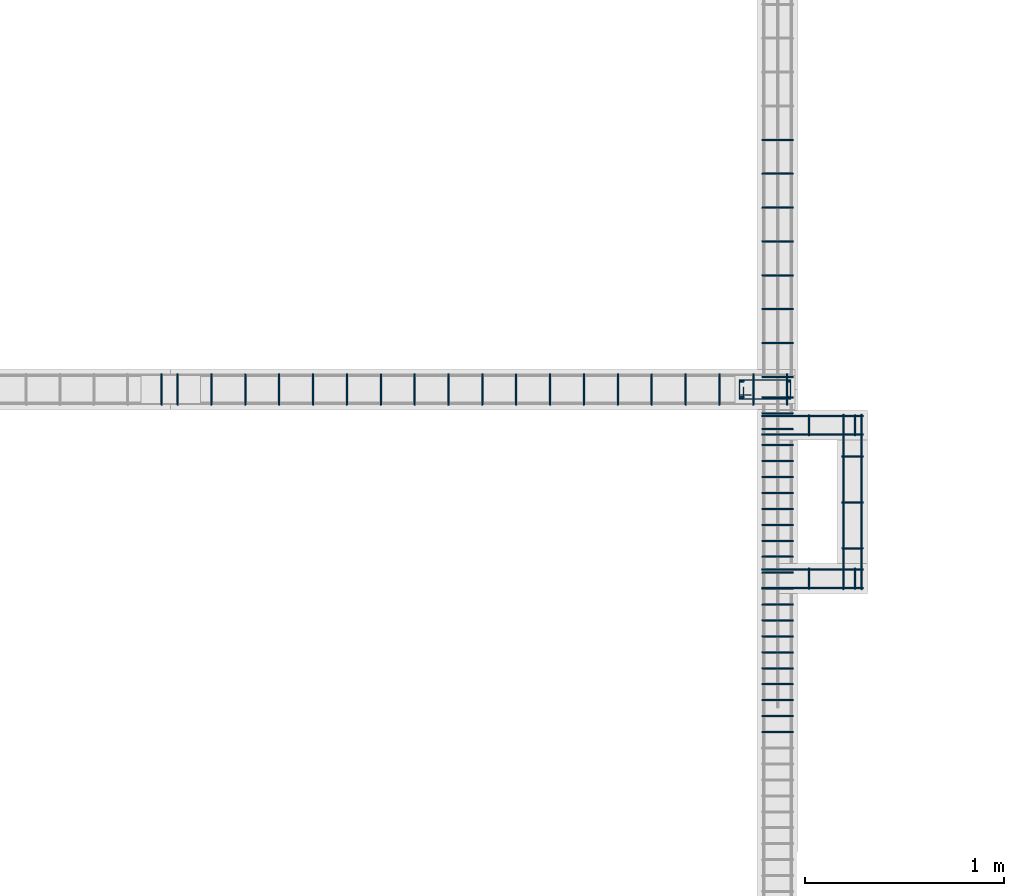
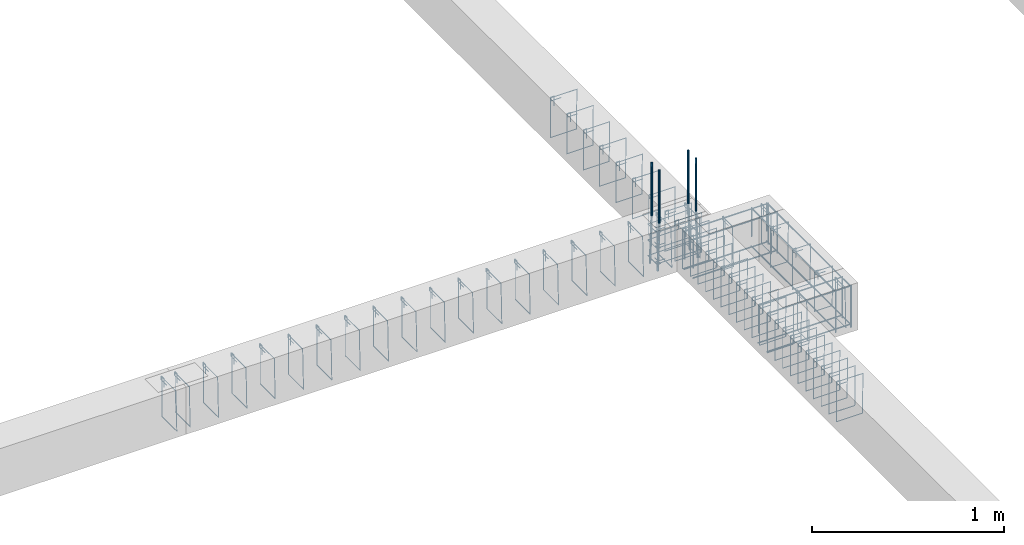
# One storey, part 70 of 150: 76 reinforcing bars.
"""IFC4 building model written with IfcOpenShell, lengths in centimetres."""

from ifc_helpers import new_model, entity, si_unit, derived_unit, frame, origin_with_axes, place, context, project, spatial, source, transform, mapped, element, save


model = new_model("IFC4")

# Units and contexts
model_context = context("Model", 3, precision=1e-05, world=origin_with_axes(), identifier="Body")
ifc_project = project(units=[si_unit("LENGTHUNIT", "METRE", prefix="CENTI"), si_unit("VOLUMEUNIT", "CUBIC_METRE"), si_unit("AREAUNIT", "SQUARE_METRE"), si_unit("POWERUNIT", "WATT"), si_unit("LUMINOUSFLUXUNIT", "LUMEN"), si_unit("ELECTRICCURRENTUNIT", "AMPERE"), si_unit("PRESSUREUNIT", "PASCAL", prefix="KILO"), si_unit("MASSUNIT", "GRAM", prefix="KILO"), si_unit("PLANEANGLEUNIT", "RADIAN"), derived_unit("VOLUMETRICFLOWRATEUNIT", [(si_unit("LENGTHUNIT", "METRE"), 3), (si_unit("TIMEUNIT", "SECOND"), -1)])], contexts=[model_context])

# Site, building, storey
site_placement = place(None, frame((-4000.0, 0.0, 0.0), z_axis=(0.0, 0.0, 1.0), x_axis=(1.0, 0.0, 0.0)))
site = spatial("IfcSite", under=ifc_project, at=site_placement, Name="PADRÃO")
building_placement = place(site_placement, frame((0.0, 0.0, -14.0)))
building = spatial("IfcBuilding", under=site, at=building_placement, Name="CRECHE PRÉ-ESCOLA TIPO 2")
placement = place(building_placement, origin_with_axes())
storey_placement = place(placement, frame((0.0, 0.0, 30.0), z_axis=(0.0, 0.0, 1.0), x_axis=(1.0, 0.0, 0.0)))
storey = spatial("IfcBuildingStorey", under=building, at=storey_placement, Name="VIGA BALDRAME", CompositionType="ELEMENT", Elevation=16.0)

# Reinforcing bars
shared_shape_1 = source(origin_with_axes(), model_context, "Body", "AdvancedSweptSolid", [
    entity("IfcSweptDiskSolid", entity("IfcCompositeCurve", [entity("IfcCompositeCurveSegment", "CONTINUOUS", True, entity("IfcPolyline", [entity("IfcCartesianPoint", [4.25, 21.75, 0.0]), entity("IfcCartesianPoint", [4.25, 27.75, 0.0])])), entity("IfcCompositeCurveSegment", "CONTINUOUS", True, entity("IfcPolyline", [entity("IfcCartesianPoint", [4.25, 27.75, 0.0]), entity("IfcCartesianPoint", [2.25, 27.75, 0.0])])), entity("IfcCompositeCurveSegment", "CONTINUOUS", True, entity("IfcPolyline", [entity("IfcCartesianPoint", [2.25, 27.75, 0.0]), entity("IfcCartesianPoint", [2.25, 2.25, 0.0])])), entity("IfcCompositeCurveSegment", "CONTINUOUS", True, entity("IfcPolyline", [entity("IfcCartesianPoint", [2.25, 2.25, 0.0]), entity("IfcCartesianPoint", [11.75, 2.25, 0.0])])), entity("IfcCompositeCurveSegment", "CONTINUOUS", True, entity("IfcPolyline", [entity("IfcCartesianPoint", [11.75, 2.25, 0.0]), entity("IfcCartesianPoint", [11.75, 27.75, -0.5])])), entity("IfcCompositeCurveSegment", "CONTINUOUS", True, entity("IfcPolyline", [entity("IfcCartesianPoint", [11.75, 27.75, -0.5]), entity("IfcCartesianPoint", [2.25, 27.75, -0.5])])), entity("IfcCompositeCurveSegment", "CONTINUOUS", True, entity("IfcPolyline", [entity("IfcCartesianPoint", [2.25, 27.75, -0.5]), entity("IfcCartesianPoint", [2.25, 25.75, -0.5])])), entity("IfcCompositeCurveSegment", "CONTINUOUS", True, entity("IfcPolyline", [entity("IfcCartesianPoint", [2.25, 25.75, -0.5]), entity("IfcCartesianPoint", [8.25, 25.75, -0.5])]))], False), 0.25),
])
for number, where, z_axis, x_axis, name in (
    (1, (1124.72, 2570.5, -25.0), (0.0, 0.0, 1.0), (0.0, 1.0, 0.0), "P71 - Estribo"),
    (2, (1124.72, 2570.5, -15.0), (0.0, 0.0, 1.0), (0.0, 1.0, 0.0), "P71 - Estribo"),
    (3, (1124.72, 2570.5, -5.0), (0.0, 0.0, 1.0), (0.0, 1.0, 0.0), "P71 - Estribo"),
):
    element("IfcReinforcingBar", number, at=place(storey_placement, frame(where, z_axis=z_axis, x_axis=x_axis)), inside=storey, Name=name, BarLength=0.0, CrossSectionArea=1.9634954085e-05, NominalDiameter=0.5, PredefinedType="MAIN", context=model_context, shape_type="MappedRepresentation", body=[
        mapped(shared_shape_1, transform((0.0, 0.0, 0.0), scale=1.0)),
    ])
shared_shape_2 = source(origin_with_axes(), model_context, "Body", "AdvancedSweptSolid", [
    entity("IfcSweptDiskSolid", entity("IfcCompositeCurve", [entity("IfcCompositeCurveSegment", "CONTINUOUS", True, entity("IfcPolyline", [entity("IfcCartesianPoint", [2.0, -6.0, 0.0]), entity("IfcCartesianPoint", [2.0, 0.0, 0.0])])), entity("IfcCompositeCurveSegment", "CONTINUOUS", True, entity("IfcPolyline", [entity("IfcCartesianPoint", [2.0, 0.0, 0.0]), entity("IfcCartesianPoint", [0.0, 0.0, 0.0])])), entity("IfcCompositeCurveSegment", "CONTINUOUS", True, entity("IfcPolyline", [entity("IfcCartesianPoint", [0.0, 0.0, 0.0]), entity("IfcCartesianPoint", [0.0, -25.5, 0.0])])), entity("IfcCompositeCurveSegment", "CONTINUOUS", True, entity("IfcPolyline", [entity("IfcCartesianPoint", [0.0, -25.5, 0.0]), entity("IfcCartesianPoint", [15.5, -25.5, 0.0])])), entity("IfcCompositeCurveSegment", "CONTINUOUS", True, entity("IfcPolyline", [entity("IfcCartesianPoint", [15.5, -25.5, 0.0]), entity("IfcCartesianPoint", [15.5, 0.0, 0.5])])), entity("IfcCompositeCurveSegment", "CONTINUOUS", True, entity("IfcPolyline", [entity("IfcCartesianPoint", [15.5, 0.0, 0.5]), entity("IfcCartesianPoint", [0.0, 0.0, 0.5])])), entity("IfcCompositeCurveSegment", "CONTINUOUS", True, entity("IfcPolyline", [entity("IfcCartesianPoint", [0.0, 0.0, 0.5]), entity("IfcCartesianPoint", [0.0, -2.0, 0.5])])), entity("IfcCompositeCurveSegment", "CONTINUOUS", True, entity("IfcPolyline", [entity("IfcCartesianPoint", [0.0, -2.0, 0.5]), entity("IfcCartesianPoint", [6.0, -2.0, 0.5])]))], False), 0.25),
])
for number, where, z_axis, x_axis, name in (
    (4, (1108.25, 2573.75, -2.25), (0.0, -1.0, 0.0), (1.0, 0.0, 0.0), "V183 - Estribo"),
    (5, (1108.25, 2565.75, -2.25), (0.0, -1.0, 0.0), (1.0, 0.0, 0.0), "V183 - Estribo"),
    (6, (1108.25, 2557.75, -2.25), (0.0, -1.0, 0.0), (1.0, 0.0, 0.0), "V183 - Estribo"),
    (7, (1108.25, 2549.75, -2.25), (0.0, -1.0, 0.0), (1.0, 0.0, 0.0), "V183 - Estribo"),
    (8, (1108.25, 2541.75, -2.25), (0.0, -1.0, 0.0), (1.0, 0.0, 0.0), "V183 - Estribo"),
    (9, (1108.25, 2533.75, -2.25), (0.0, -1.0, 0.0), (1.0, 0.0, 0.0), "V183 - Estribo"),
    (10, (1108.25, 2525.75, -2.25), (0.0, -1.0, 0.0), (1.0, 0.0, 0.0), "V183 - Estribo"),
    (11, (1108.25, 2517.75, -2.25), (0.0, -1.0, 0.0), (1.0, 0.0, 0.0), "V183 - Estribo"),
    (12, (1108.25, 2509.75, -2.25), (0.0, -1.0, 0.0), (1.0, 0.0, 0.0), "V183 - Estribo"),
    (13, (1108.25, 2501.75, -2.25), (0.0, -1.0, 0.0), (1.0, 0.0, 0.0), "V183 - Estribo"),
    (14, (1108.25, 2493.75, -2.25), (0.0, -1.0, 0.0), (1.0, 0.0, 0.0), "V183 - Estribo"),
    (15, (1108.25, 2485.75, -2.25), (0.0, -1.0, 0.0), (1.0, 0.0, 0.0), "V183 - Estribo"),
    (16, (1108.25, 2477.75, -2.25), (0.0, -1.0, 0.0), (1.0, 0.0, 0.0), "V183 - Estribo"),
    (17, (1108.25, 2469.75, -2.25), (0.0, -1.0, 0.0), (1.0, 0.0, 0.0), "V183 - Estribo"),
    (18, (1108.25, 2461.75, -2.25), (0.0, -1.0, 0.0), (1.0, 0.0, 0.0), "V183 - Estribo"),
    (19, (1108.25, 2453.75, -2.25), (0.0, -1.0, 0.0), (1.0, 0.0, 0.0), "V183 - Estribo"),
    (20, (1108.25, 2445.75, -2.25), (0.0, -1.0, 0.0), (1.0, 0.0, 0.0), "V183 - Estribo"),
    (21, (1108.25, 2437.75, -2.25), (0.0, -1.0, 0.0), (1.0, 0.0, 0.0), "V183 - Estribo"),
    (22, (1108.25, 2429.75, -2.25), (0.0, -1.0, 0.0), (1.0, 0.0, 0.0), "V183 - Estribo"),
    (23, (1108.25, 2421.75, -2.25), (0.0, -1.0, 0.0), (1.0, 0.0, 0.0), "V183 - Estribo"),
    (24, (1108.25, 2413.75, -2.25), (0.0, -1.0, 0.0), (1.0, 0.0, 0.0), "V183 - Estribo"),
    (25, (1108.25, 2405.75, -2.25), (0.0, -1.0, 0.0), (1.0, 0.0, 0.0), "V183 - Estribo"),
):
    element("IfcReinforcingBar", number, at=place(storey_placement, frame(where, z_axis=z_axis, x_axis=x_axis)), inside=storey, Name=name, BarLength=0.0, CrossSectionArea=1.9634954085e-05, NominalDiameter=0.5, PredefinedType="MAIN", context=model_context, shape_type="MappedRepresentation", body=[
        mapped(shared_shape_2, transform((0.0, 0.0, 0.0), scale=1.0)),
    ])
shared_shape_3 = source(origin_with_axes(), model_context, "Body", "AdvancedSweptSolid", [
    entity("IfcSweptDiskSolid", entity("IfcCompositeCurve", [entity("IfcCompositeCurveSegment", "CONTINUOUS", True, entity("IfcPolyline", [entity("IfcCartesianPoint", [2.0, -6.0, 0.0]), entity("IfcCartesianPoint", [2.0, 0.0, 0.0])])), entity("IfcCompositeCurveSegment", "CONTINUOUS", True, entity("IfcPolyline", [entity("IfcCartesianPoint", [2.0, 0.0, 0.0]), entity("IfcCartesianPoint", [0.0, 0.0, 0.0])])), entity("IfcCompositeCurveSegment", "CONTINUOUS", True, entity("IfcPolyline", [entity("IfcCartesianPoint", [0.0, 0.0, 0.0]), entity("IfcCartesianPoint", [0.0, -25.5, 0.0])])), entity("IfcCompositeCurveSegment", "CONTINUOUS", True, entity("IfcPolyline", [entity("IfcCartesianPoint", [0.0, -25.5, 0.0]), entity("IfcCartesianPoint", [15.5, -25.5, 0.0])])), entity("IfcCompositeCurveSegment", "CONTINUOUS", True, entity("IfcPolyline", [entity("IfcCartesianPoint", [15.5, -25.5, 0.0]), entity("IfcCartesianPoint", [15.5, 0.0, 0.5])])), entity("IfcCompositeCurveSegment", "CONTINUOUS", True, entity("IfcPolyline", [entity("IfcCartesianPoint", [15.5, 0.0, 0.5]), entity("IfcCartesianPoint", [0.0, 0.0, 0.5])])), entity("IfcCompositeCurveSegment", "CONTINUOUS", True, entity("IfcPolyline", [entity("IfcCartesianPoint", [0.0, 0.0, 0.5]), entity("IfcCartesianPoint", [0.0, -2.0, 0.5])])), entity("IfcCompositeCurveSegment", "CONTINUOUS", True, entity("IfcPolyline", [entity("IfcCartesianPoint", [0.0, -2.0, 0.5]), entity("IfcCartesianPoint", [6.0, -2.0, 0.5])]))], False), 0.25),
])
for number, where, z_axis, x_axis, name in (
    (26, (1108.25, 2703.0, -2.25), (0.0, -1.0, 0.0), (1.0, 0.0, 0.0), "V183 - Estribo"),
    (27, (1108.25, 2686.0, -2.25), (0.0, -1.0, 0.0), (1.0, 0.0, 0.0), "V183 - Estribo"),
    (28, (1108.25, 2669.0, -2.25), (0.0, -1.0, 0.0), (1.0, 0.0, 0.0), "V183 - Estribo"),
    (29, (1108.25, 2652.0, -2.25), (0.0, -1.0, 0.0), (1.0, 0.0, 0.0), "V183 - Estribo"),
    (30, (1108.25, 2635.0, -2.25), (0.0, -1.0, 0.0), (1.0, 0.0, 0.0), "V183 - Estribo"),
    (31, (1108.25, 2618.0, -2.25), (0.0, -1.0, 0.0), (1.0, 0.0, 0.0), "V183 - Estribo"),
    (32, (1108.25, 2601.0, -2.25), (0.0, -1.0, 0.0), (1.0, 0.0, 0.0), "V183 - Estribo"),
    (33, (1108.25, 2584.0, -2.25), (0.0, -1.0, 0.0), (1.0, 0.0, 0.0), "V183 - Estribo"),
):
    element("IfcReinforcingBar", number, at=place(storey_placement, frame(where, z_axis=z_axis, x_axis=x_axis)), inside=storey, Name=name, BarLength=0.0, CrossSectionArea=1.9634954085e-05, NominalDiameter=0.5, PredefinedType="MAIN", context=model_context, shape_type="MappedRepresentation", body=[
        mapped(shared_shape_3, transform((0.0, 0.0, 0.0), scale=1.0)),
    ])
shared_shape_4 = source(origin_with_axes(), model_context, "Body", "AdvancedSweptSolid", [
    entity("IfcSweptDiskSolid", entity("IfcCompositeCurve", [entity("IfcCompositeCurveSegment", "CONTINUOUS", True, entity("IfcPolyline", [entity("IfcCartesianPoint", [2.0, -6.0, 0.0]), entity("IfcCartesianPoint", [2.0, 0.0, 0.0])])), entity("IfcCompositeCurveSegment", "CONTINUOUS", True, entity("IfcPolyline", [entity("IfcCartesianPoint", [2.0, 0.0, 0.0]), entity("IfcCartesianPoint", [0.0, 0.0, 0.0])])), entity("IfcCompositeCurveSegment", "CONTINUOUS", True, entity("IfcPolyline", [entity("IfcCartesianPoint", [0.0, 0.0, 0.0]), entity("IfcCartesianPoint", [0.0, -25.5, 0.0])])), entity("IfcCompositeCurveSegment", "CONTINUOUS", True, entity("IfcPolyline", [entity("IfcCartesianPoint", [0.0, -25.5, 0.0]), entity("IfcCartesianPoint", [15.5, -25.5, 0.0])])), entity("IfcCompositeCurveSegment", "CONTINUOUS", True, entity("IfcPolyline", [entity("IfcCartesianPoint", [15.5, -25.5, 0.0]), entity("IfcCartesianPoint", [15.5, 0.0, 0.5])])), entity("IfcCompositeCurveSegment", "CONTINUOUS", True, entity("IfcPolyline", [entity("IfcCartesianPoint", [15.5, 0.0, 0.5]), entity("IfcCartesianPoint", [0.0, 0.0, 0.5])])), entity("IfcCompositeCurveSegment", "CONTINUOUS", True, entity("IfcPolyline", [entity("IfcCartesianPoint", [0.0, 0.0, 0.5]), entity("IfcCartesianPoint", [0.0, -2.0, 0.5])])), entity("IfcCompositeCurveSegment", "CONTINUOUS", True, entity("IfcPolyline", [entity("IfcCartesianPoint", [0.0, -2.0, 0.5]), entity("IfcCartesianPoint", [6.0, -2.0, 0.5])]))], False), 0.25),
])
reinforcing_bar_placement = place(storey_placement, frame((807.04, 2585.25, -2.25), z_axis=(-1.0, 0.0, 0.0), x_axis=(0.0, -1.0, 0.0)))
element("IfcReinforcingBar", 34, at=reinforcing_bar_placement, inside=storey, Name="V120 - Estribo", BarLength=0.0, CrossSectionArea=1.9634954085e-05, NominalDiameter=0.5, PredefinedType="MAIN", context=model_context, shape_type="MappedRepresentation", body=[
    mapped(shared_shape_4, transform((0.0, 0.0, 0.0), scale=1.0)),
])
shared_shape_5 = source(origin_with_axes(), model_context, "Body", "AdvancedSweptSolid", [
    entity("IfcSweptDiskSolid", entity("IfcCompositeCurve", [entity("IfcCompositeCurveSegment", "CONTINUOUS", True, entity("IfcPolyline", [entity("IfcCartesianPoint", [2.0, -6.0, 0.0]), entity("IfcCartesianPoint", [2.0, 0.0, 0.0])])), entity("IfcCompositeCurveSegment", "CONTINUOUS", True, entity("IfcPolyline", [entity("IfcCartesianPoint", [2.0, 0.0, 0.0]), entity("IfcCartesianPoint", [0.0, 0.0, 0.0])])), entity("IfcCompositeCurveSegment", "CONTINUOUS", True, entity("IfcPolyline", [entity("IfcCartesianPoint", [0.0, 0.0, 0.0]), entity("IfcCartesianPoint", [0.0, -25.5, 0.0])])), entity("IfcCompositeCurveSegment", "CONTINUOUS", True, entity("IfcPolyline", [entity("IfcCartesianPoint", [0.0, -25.5, 0.0]), entity("IfcCartesianPoint", [15.5, -25.5, 0.0])])), entity("IfcCompositeCurveSegment", "CONTINUOUS", True, entity("IfcPolyline", [entity("IfcCartesianPoint", [15.5, -25.5, 0.0]), entity("IfcCartesianPoint", [15.5, 0.0, 0.5])])), entity("IfcCompositeCurveSegment", "CONTINUOUS", True, entity("IfcPolyline", [entity("IfcCartesianPoint", [15.5, 0.0, 0.5]), entity("IfcCartesianPoint", [0.0, 0.0, 0.5])])), entity("IfcCompositeCurveSegment", "CONTINUOUS", True, entity("IfcPolyline", [entity("IfcCartesianPoint", [0.0, 0.0, 0.5]), entity("IfcCartesianPoint", [0.0, -2.0, 0.5])])), entity("IfcCompositeCurveSegment", "CONTINUOUS", True, entity("IfcPolyline", [entity("IfcCartesianPoint", [0.0, -2.0, 0.5]), entity("IfcCartesianPoint", [6.0, -2.0, 0.5])]))], False), 0.25),
])
for number, where, z_axis, x_axis, name in (
    (35, (1070.055, 2585.25, -2.25), (-1.0, 0.0, 0.0), (0.0, -1.0, 0.0), "V120 - Estribo"),
    (36, (1053.055, 2585.25, -2.25), (-1.0, 0.0, 0.0), (0.0, -1.0, 0.0), "V120 - Estribo"),
    (37, (1036.055, 2585.25, -2.25), (-1.0, 0.0, 0.0), (0.0, -1.0, 0.0), "V120 - Estribo"),
    (38, (1019.055, 2585.25, -2.25), (-1.0, 0.0, 0.0), (0.0, -1.0, 0.0), "V120 - Estribo"),
    (39, (968.055, 2585.25, -2.25), (-1.0, 0.0, 0.0), (0.0, -1.0, 0.0), "V120 - Estribo"),
    (40, (951.055, 2585.25, -2.25), (-1.0, 0.0, 0.0), (0.0, -1.0, 0.0), "V120 - Estribo"),
    (41, (1121.055, 2585.25, -2.25), (-1.0, 0.0, 0.0), (0.0, -1.0, 0.0), "V120 - Estribo"),
    (42, (815.055, 2585.25, -2.25), (-1.0, 0.0, 0.0), (0.0, -1.0, 0.0), "V120 - Estribo"),
    (43, (832.055, 2585.25, -2.25), (-1.0, 0.0, 0.0), (0.0, -1.0, 0.0), "V120 - Estribo"),
    (44, (985.055, 2585.25, -2.25), (-1.0, 0.0, 0.0), (0.0, -1.0, 0.0), "V120 - Estribo"),
    (45, (849.055, 2585.25, -2.25), (-1.0, 0.0, 0.0), (0.0, -1.0, 0.0), "V120 - Estribo"),
    (46, (1002.055, 2585.25, -2.25), (-1.0, 0.0, 0.0), (0.0, -1.0, 0.0), "V120 - Estribo"),
    (47, (866.055, 2585.25, -2.25), (-1.0, 0.0, 0.0), (0.0, -1.0, 0.0), "V120 - Estribo"),
    (48, (934.055, 2585.25, -2.25), (-1.0, 0.0, 0.0), (0.0, -1.0, 0.0), "V120 - Estribo"),
    (49, (900.055, 2585.25, -2.25), (-1.0, 0.0, 0.0), (0.0, -1.0, 0.0), "V120 - Estribo"),
    (50, (917.055, 2585.25, -2.25), (-1.0, 0.0, 0.0), (0.0, -1.0, 0.0), "V120 - Estribo"),
    (51, (883.055, 2585.25, -2.25), (-1.0, 0.0, 0.0), (0.0, -1.0, 0.0), "V120 - Estribo"),
    (52, (1104.055, 2585.25, -2.25), (-1.0, 0.0, 0.0), (0.0, -1.0, 0.0), "V120 - Estribo"),
    (53, (1087.055, 2585.25, -2.25), (-1.0, 0.0, 0.0), (0.0, -1.0, 0.0), "V120 - Estribo"),
):
    element("IfcReinforcingBar", number, at=place(storey_placement, frame(where, z_axis=z_axis, x_axis=x_axis)), inside=storey, Name=name, BarLength=0.0, CrossSectionArea=1.9634954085e-05, NominalDiameter=0.5, PredefinedType="MAIN", context=model_context, shape_type="MappedRepresentation", body=[
        mapped(shared_shape_5, transform((0.0, 0.0, 0.0), scale=1.0)),
    ])
shared_shape_6 = source(origin_with_axes(), model_context, "Body", "AdvancedSweptSolid", [
    entity("IfcSweptDiskSolid", entity("IfcCompositeCurve", [entity("IfcCompositeCurveSegment", "CONTINUOUS", True, entity("IfcPolyline", [entity("IfcCartesianPoint", [2.0, -6.0, 0.0]), entity("IfcCartesianPoint", [2.0, 0.0, 0.0])])), entity("IfcCompositeCurveSegment", "CONTINUOUS", True, entity("IfcPolyline", [entity("IfcCartesianPoint", [2.0, 0.0, 0.0]), entity("IfcCartesianPoint", [0.0, 0.0, 0.0])])), entity("IfcCompositeCurveSegment", "CONTINUOUS", True, entity("IfcPolyline", [entity("IfcCartesianPoint", [0.0, 0.0, 0.0]), entity("IfcCartesianPoint", [0.0, -25.5, 0.0])])), entity("IfcCompositeCurveSegment", "CONTINUOUS", True, entity("IfcPolyline", [entity("IfcCartesianPoint", [0.0, -25.5, 0.0]), entity("IfcCartesianPoint", [10.5, -25.5, 0.0])])), entity("IfcCompositeCurveSegment", "CONTINUOUS", True, entity("IfcPolyline", [entity("IfcCartesianPoint", [10.5, -25.5, 0.0]), entity("IfcCartesianPoint", [10.5, 0.0, 0.5])])), entity("IfcCompositeCurveSegment", "CONTINUOUS", True, entity("IfcPolyline", [entity("IfcCartesianPoint", [10.5, 0.0, 0.5]), entity("IfcCartesianPoint", [0.0, 0.0, 0.5])])), entity("IfcCompositeCurveSegment", "CONTINUOUS", True, entity("IfcPolyline", [entity("IfcCartesianPoint", [0.0, 0.0, 0.5]), entity("IfcCartesianPoint", [0.0, -2.0, 0.5])])), entity("IfcCompositeCurveSegment", "CONTINUOUS", True, entity("IfcPolyline", [entity("IfcCartesianPoint", [0.0, -2.0, 0.5]), entity("IfcCartesianPoint", [6.0, -2.0, 0.5])]))], False), 0.25),
])
for number, where, z_axis, x_axis, name in (
    (54, (1155.035, 2564.75, -2.25), (-1.0, 0.0, 0.0), (0.0, -1.0, 0.0), "V121 - Estribo"),
    (55, (1132.035, 2564.75, -2.25), (-1.0, 0.0, 0.0), (0.0, -1.0, 0.0), "V121 - Estribo"),
):
    element("IfcReinforcingBar", number, at=place(storey_placement, frame(where, z_axis=z_axis, x_axis=x_axis)), inside=storey, Name=name, BarLength=0.0, CrossSectionArea=1.9634954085e-05, NominalDiameter=0.5, PredefinedType="MAIN", context=model_context, shape_type="MappedRepresentation", body=[
        mapped(shared_shape_6, transform((0.0, 0.0, 0.0), scale=1.0)),
    ])
shared_shape_7 = source(origin_with_axes(), model_context, "Body", "AdvancedSweptSolid", [
    entity("IfcSweptDiskSolid", entity("IfcCompositeCurve", [entity("IfcCompositeCurveSegment", "CONTINUOUS", True, entity("IfcPolyline", [entity("IfcCartesianPoint", [2.0, -6.0, 0.0]), entity("IfcCartesianPoint", [2.0, 0.0, 0.0])])), entity("IfcCompositeCurveSegment", "CONTINUOUS", True, entity("IfcPolyline", [entity("IfcCartesianPoint", [2.0, 0.0, 0.0]), entity("IfcCartesianPoint", [0.0, 0.0, 0.0])])), entity("IfcCompositeCurveSegment", "CONTINUOUS", True, entity("IfcPolyline", [entity("IfcCartesianPoint", [0.0, 0.0, 0.0]), entity("IfcCartesianPoint", [0.0, -25.5, 0.0])])), entity("IfcCompositeCurveSegment", "CONTINUOUS", True, entity("IfcPolyline", [entity("IfcCartesianPoint", [0.0, -25.5, 0.0]), entity("IfcCartesianPoint", [10.5, -25.5, 0.0])])), entity("IfcCompositeCurveSegment", "CONTINUOUS", True, entity("IfcPolyline", [entity("IfcCartesianPoint", [10.5, -25.5, 0.0]), entity("IfcCartesianPoint", [10.5, 0.0, 0.5])])), entity("IfcCompositeCurveSegment", "CONTINUOUS", True, entity("IfcPolyline", [entity("IfcCartesianPoint", [10.5, 0.0, 0.5]), entity("IfcCartesianPoint", [0.0, 0.0, 0.5])])), entity("IfcCompositeCurveSegment", "CONTINUOUS", True, entity("IfcPolyline", [entity("IfcCartesianPoint", [0.0, 0.0, 0.5]), entity("IfcCartesianPoint", [0.0, -2.0, 0.5])])), entity("IfcCompositeCurveSegment", "CONTINUOUS", True, entity("IfcPolyline", [entity("IfcCartesianPoint", [0.0, -2.0, 0.5]), entity("IfcCartesianPoint", [6.0, -2.0, 0.5])]))], False), 0.25),
])
for number, where, z_axis, x_axis, name in (
    (56, (1132.035, 2487.75, -2.25), (-1.0, 0.0, 0.0), (0.0, -1.0, 0.0), "V124 - Estribo"),
    (57, (1155.035, 2487.75, -2.25), (-1.0, 0.0, 0.0), (0.0, -1.0, 0.0), "V124 - Estribo"),
):
    element("IfcReinforcingBar", number, at=place(storey_placement, frame(where, z_axis=z_axis, x_axis=x_axis)), inside=storey, Name=name, BarLength=0.0, CrossSectionArea=1.9634954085e-05, NominalDiameter=0.5, PredefinedType="MAIN", context=model_context, shape_type="MappedRepresentation", body=[
        mapped(shared_shape_7, transform((0.0, 0.0, 0.0), scale=1.0)),
    ])
shared_shape_8 = source(origin_with_axes(), model_context, "Body", "AdvancedSweptSolid", [
    entity("IfcSweptDiskSolid", entity("IfcCompositeCurve", [entity("IfcCompositeCurveSegment", "CONTINUOUS", True, entity("IfcPolyline", [entity("IfcCartesianPoint", [2.0, -6.0, 0.0]), entity("IfcCartesianPoint", [2.0, 0.0, 0.0])])), entity("IfcCompositeCurveSegment", "CONTINUOUS", True, entity("IfcPolyline", [entity("IfcCartesianPoint", [2.0, 0.0, 0.0]), entity("IfcCartesianPoint", [0.0, 0.0, 0.0])])), entity("IfcCompositeCurveSegment", "CONTINUOUS", True, entity("IfcPolyline", [entity("IfcCartesianPoint", [0.0, 0.0, 0.0]), entity("IfcCartesianPoint", [0.0, -25.5, 0.0])])), entity("IfcCompositeCurveSegment", "CONTINUOUS", True, entity("IfcPolyline", [entity("IfcCartesianPoint", [0.0, -25.5, 0.0]), entity("IfcCartesianPoint", [10.5, -25.5, 0.0])])), entity("IfcCompositeCurveSegment", "CONTINUOUS", True, entity("IfcPolyline", [entity("IfcCartesianPoint", [10.5, -25.5, 0.0]), entity("IfcCartesianPoint", [10.5, 0.0, 0.5])])), entity("IfcCompositeCurveSegment", "CONTINUOUS", True, entity("IfcPolyline", [entity("IfcCartesianPoint", [10.5, 0.0, 0.5]), entity("IfcCartesianPoint", [0.0, 0.0, 0.5])])), entity("IfcCompositeCurveSegment", "CONTINUOUS", True, entity("IfcPolyline", [entity("IfcCartesianPoint", [0.0, 0.0, 0.5]), entity("IfcCartesianPoint", [0.0, -2.0, 0.5])])), entity("IfcCompositeCurveSegment", "CONTINUOUS", True, entity("IfcPolyline", [entity("IfcCartesianPoint", [0.0, -2.0, 0.5]), entity("IfcCartesianPoint", [6.0, -2.0, 0.5])]))], False), 0.25),
])
for number, where, z_axis, x_axis, name in (
    (58, (1148.32, 2544.0, -2.25), (0.0, -1.0, 0.0), (1.0, 0.0, 0.0), "V184 - Estribo"),
    (59, (1148.32, 2498.0, -2.25), (0.0, -1.0, 0.0), (1.0, 0.0, 0.0), "V184 - Estribo"),
    (60, (1148.32, 2521.0, -2.25), (0.0, -1.0, 0.0), (1.0, 0.0, 0.0), "V184 - Estribo"),
):
    element("IfcReinforcingBar", number, at=place(storey_placement, frame(where, z_axis=z_axis, x_axis=x_axis)), inside=storey, Name=name, BarLength=0.0, CrossSectionArea=1.9634954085e-05, NominalDiameter=0.5, PredefinedType="MAIN", context=model_context, shape_type="MappedRepresentation", body=[
        mapped(shared_shape_8, transform((0.0, 0.0, 0.0), scale=1.0)),
    ])
for number, where, z_axis, x_axis, name in (
    (61, (1121.21986122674, 2573.5, 33.3573001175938), (0.0, 0.0, 1.0), (1.0, 0.0, 0.0), "P71 - Longitudinal"),
    (62, (1121.21986122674, 2581.5, 33.3573001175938), (0.0, 0.0, 1.0), (1.0, 0.0, 0.0), "P71 - Longitudinal"),
):
    element("IfcReinforcingBar", number, at=place(storey_placement, frame(where, z_axis=z_axis, x_axis=x_axis)), inside=storey, Name=name, BarLength=0.0, CrossSectionArea=7.853981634e-05, NominalDiameter=1.0, PredefinedType="MAIN", context=model_context, shape_type="AdvancedSweptSolid", body=[
        entity("IfcSweptDiskSolid", entity("IfcCompositeCurve", [entity("IfcCompositeCurveSegment", "CONTINUOUS", True, entity("IfcPolyline", [entity("IfcCartesianPoint", [0.50013877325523, 0.0, -63.3573001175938]), entity("IfcCartesianPoint", [-0.49986122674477, 0.0, -33.3573001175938])])), entity("IfcCompositeCurveSegment", "CONTINUOUS", True, entity("IfcPolyline", [entity("IfcCartesianPoint", [-0.49986122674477, 0.0, -33.3573001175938]), entity("IfcCartesianPoint", [-0.49986122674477, 0.0, 0.0])]))], False), 0.5),
    ])
for number, where, z_axis, x_axis, name in (
    (63, (1098.22013877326, 2581.5, 33.3573001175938), (0.0, 0.0, 1.0), (1.0, 0.0, 0.0), "P71 - Longitudinal"),
    (64, (1098.22013877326, 2573.5, 33.3573001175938), (0.0, 0.0, 1.0), (1.0, 0.0, 0.0), "P71 - Longitudinal"),
):
    element("IfcReinforcingBar", number, at=place(storey_placement, frame(where, z_axis=z_axis, x_axis=x_axis)), inside=storey, Name=name, BarLength=0.0, CrossSectionArea=7.853981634e-05, NominalDiameter=1.0, PredefinedType="MAIN", context=model_context, shape_type="AdvancedSweptSolid", body=[
        entity("IfcSweptDiskSolid", entity("IfcCompositeCurve", [entity("IfcCompositeCurveSegment", "CONTINUOUS", True, entity("IfcPolyline", [entity("IfcCartesianPoint", [-0.50013877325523, 0.0, -63.3573001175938]), entity("IfcCartesianPoint", [0.49986122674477, 0.0, -33.3573001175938])])), entity("IfcCompositeCurveSegment", "CONTINUOUS", True, entity("IfcPolyline", [entity("IfcCartesianPoint", [0.49986122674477, 0.0, -33.3573001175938]), entity("IfcCartesianPoint", [0.49986122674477, 0.0, 0.0])]))], False), 0.5),
    ])
for number, where, z_axis, x_axis, name in (
    (65, (1133.5368751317, 2564.1, -9.18219519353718), (0.0, 0.0, 1.0), (1.0, 0.0, 0.0), "V121 - Longitudinal inferior"),
    (66, (1133.5368751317, 2554.9, -9.18219519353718), (0.0, 0.0, 1.0), (1.0, 0.0, 0.0), "V121 - Longitudinal inferior"),
):
    element("IfcReinforcingBar", number, at=place(storey_placement, frame(where, z_axis=z_axis, x_axis=x_axis)), inside=storey, Name=name, BarLength=0.0, CrossSectionArea=5.0265482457e-05, NominalDiameter=0.8, PredefinedType="MAIN", context=model_context, shape_type="AdvancedSweptSolid", body=[
        entity("IfcSweptDiskSolid", entity("IfcCompositeCurve", [entity("IfcCompositeCurveSegment", "CONTINUOUS", True, entity("IfcPolyline", [entity("IfcCartesianPoint", [-25.5368751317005, 0.0, -17.9178048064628]), entity("IfcCartesianPoint", [25.1331248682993, 0.0, -17.9178048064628])])), entity("IfcCompositeCurveSegment", "CONTINUOUS", True, entity("IfcPolyline", [entity("IfcCartesianPoint", [25.1331248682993, 0.0, -17.9178048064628]), entity("IfcCartesianPoint", [25.1331248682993, 0.0, 0.0])]))], False), 0.4),
    ])
for number, where, z_axis, x_axis, name in (
    (67, (1133.535, 2564.1, -2.49624973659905), (0.0, 0.0, 1.0), (1.0, 0.0, 0.0), "V121 - Longitudinal superior"),
    (68, (1133.535, 2554.9, -2.49624973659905), (0.0, 0.0, 1.0), (1.0, 0.0, 0.0), "V121 - Longitudinal superior"),
):
    element("IfcReinforcingBar", number, at=place(storey_placement, frame(where, z_axis=z_axis, x_axis=x_axis)), inside=storey, Name=name, BarLength=0.0, CrossSectionArea=5.0265482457e-05, NominalDiameter=0.8, PredefinedType="MAIN", context=model_context, shape_type="AdvancedSweptSolid", body=[
        entity("IfcSweptDiskSolid", entity("IfcCompositeCurve", [entity("IfcCompositeCurveSegment", "CONTINUOUS", True, entity("IfcPolyline", [entity("IfcCartesianPoint", [-25.135, 0.0, -18.3215550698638]), entity("IfcCartesianPoint", [-25.135, 0.0, -0.403750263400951])])), entity("IfcCompositeCurveSegment", "CONTINUOUS", True, entity("IfcPolyline", [entity("IfcCartesianPoint", [-25.135, 0.0, -0.403750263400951]), entity("IfcCartesianPoint", [25.135, 0.0, -0.403750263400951])])), entity("IfcCompositeCurveSegment", "CONTINUOUS", True, entity("IfcPolyline", [entity("IfcCartesianPoint", [25.135, 0.0, -0.403750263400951]), entity("IfcCartesianPoint", [25.135, 0.0, -26.403750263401])]))], False), 0.4),
    ])
for number, where, z_axis, x_axis, name in (
    (69, (1133.5368751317, 2477.9, -9.18219519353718), (0.0, 0.0, 1.0), (1.0, 0.0, 0.0), "V124 - Longitudinal inferior"),
    (70, (1133.5368751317, 2487.1, -9.18219519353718), (0.0, 0.0, 1.0), (1.0, 0.0, 0.0), "V124 - Longitudinal inferior"),
):
    element("IfcReinforcingBar", number, at=place(storey_placement, frame(where, z_axis=z_axis, x_axis=x_axis)), inside=storey, Name=name, BarLength=0.0, CrossSectionArea=5.0265482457e-05, NominalDiameter=0.8, PredefinedType="MAIN", context=model_context, shape_type="AdvancedSweptSolid", body=[
        entity("IfcSweptDiskSolid", entity("IfcCompositeCurve", [entity("IfcCompositeCurveSegment", "CONTINUOUS", True, entity("IfcPolyline", [entity("IfcCartesianPoint", [-25.5368751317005, 0.0, -17.9178048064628]), entity("IfcCartesianPoint", [25.1331248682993, 0.0, -17.9178048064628])])), entity("IfcCompositeCurveSegment", "CONTINUOUS", True, entity("IfcPolyline", [entity("IfcCartesianPoint", [25.1331248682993, 0.0, -17.9178048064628]), entity("IfcCartesianPoint", [25.1331248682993, 0.0, 0.0])]))], False), 0.4),
    ])
for number, where, z_axis, x_axis, name in (
    (71, (1133.535, 2477.9, -2.49624973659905), (0.0, 0.0, 1.0), (1.0, 0.0, 0.0), "V124 - Longitudinal superior"),
    (72, (1133.535, 2487.1, -2.49624973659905), (0.0, 0.0, 1.0), (1.0, 0.0, 0.0), "V124 - Longitudinal superior"),
):
    element("IfcReinforcingBar", number, at=place(storey_placement, frame(where, z_axis=z_axis, x_axis=x_axis)), inside=storey, Name=name, BarLength=0.0, CrossSectionArea=5.0265482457e-05, NominalDiameter=0.8, PredefinedType="MAIN", context=model_context, shape_type="AdvancedSweptSolid", body=[
        entity("IfcSweptDiskSolid", entity("IfcCompositeCurve", [entity("IfcCompositeCurveSegment", "CONTINUOUS", True, entity("IfcPolyline", [entity("IfcCartesianPoint", [-25.135, 0.0, -18.3215550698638]), entity("IfcCartesianPoint", [-25.135, 0.0, -0.403750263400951])])), entity("IfcCompositeCurveSegment", "CONTINUOUS", True, entity("IfcPolyline", [entity("IfcCartesianPoint", [-25.135, 0.0, -0.403750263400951]), entity("IfcCartesianPoint", [25.135, 0.0, -0.403750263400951])])), entity("IfcCompositeCurveSegment", "CONTINUOUS", True, entity("IfcPolyline", [entity("IfcCartesianPoint", [25.135, 0.0, -0.403750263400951]), entity("IfcCartesianPoint", [25.135, 0.0, -26.403750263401])]))], False), 0.4),
    ])
for number, where, z_axis, x_axis, name in (
    (73, (1148.97, 2520.9981248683, -17.1), (0.0, 0.0, 1.0), (1.0, 0.0, 0.0), "V184 - Longitudinal inferior"),
    (74, (1158.17, 2520.9981248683, -17.1), (0.0, 0.0, 1.0), (1.0, 0.0, 0.0), "V184 - Longitudinal inferior"),
):
    element("IfcReinforcingBar", number, at=place(storey_placement, frame(where, z_axis=z_axis, x_axis=x_axis)), inside=storey, Name=name, BarLength=0.0, CrossSectionArea=5.0265482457e-05, NominalDiameter=0.8, PredefinedType="MAIN", context=model_context, shape_type="AdvancedSweptSolid", body=[
        entity("IfcSweptDiskSolid", entity("IfcCompositeCurve", [entity("IfcCompositeCurveSegment", "CONTINUOUS", True, entity("IfcPolyline", [entity("IfcCartesianPoint", [0.0, -43.5981248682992, 0.0]), entity("IfcCartesianPoint", [0.0, -43.5981248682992, -10.0])])), entity("IfcCompositeCurveSegment", "CONTINUOUS", True, entity("IfcPolyline", [entity("IfcCartesianPoint", [0.0, -43.5981248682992, -10.0]), entity("IfcCartesianPoint", [0.0, 44.0018751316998, -10.0])]))], False), 0.4),
    ])
for number, where, z_axis, x_axis, name in (
    (75, (1148.97, 2521.0, -2.49624973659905), (0.0, 0.0, 1.0), (1.0, 0.0, 0.0), "V184 - Longitudinal superior"),
    (76, (1158.17, 2521.0, -2.49624973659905), (0.0, 0.0, 1.0), (1.0, 0.0, 0.0), "V184 - Longitudinal superior"),
):
    element("IfcReinforcingBar", number, at=place(storey_placement, frame(where, z_axis=z_axis, x_axis=x_axis)), inside=storey, Name=name, BarLength=0.0, CrossSectionArea=5.0265482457e-05, NominalDiameter=0.8, PredefinedType="MAIN", context=model_context, shape_type="AdvancedSweptSolid", body=[
        entity("IfcSweptDiskSolid", entity("IfcCompositeCurve", [entity("IfcCompositeCurveSegment", "CONTINUOUS", True, entity("IfcPolyline", [entity("IfcCartesianPoint", [0.0, -43.6, -26.403750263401]), entity("IfcCartesianPoint", [0.0, -43.6, -0.403750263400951])])), entity("IfcCompositeCurveSegment", "CONTINUOUS", True, entity("IfcPolyline", [entity("IfcCartesianPoint", [0.0, -43.6, -0.403750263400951]), entity("IfcCartesianPoint", [0.0, 43.6, -0.403750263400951])])), entity("IfcCompositeCurveSegment", "CONTINUOUS", True, entity("IfcPolyline", [entity("IfcCartesianPoint", [0.0, 43.6, -0.403750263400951]), entity("IfcCartesianPoint", [0.0, 43.6, -18.3215550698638])]))], False), 0.4),
    ])

save(model, "model.ifc")
